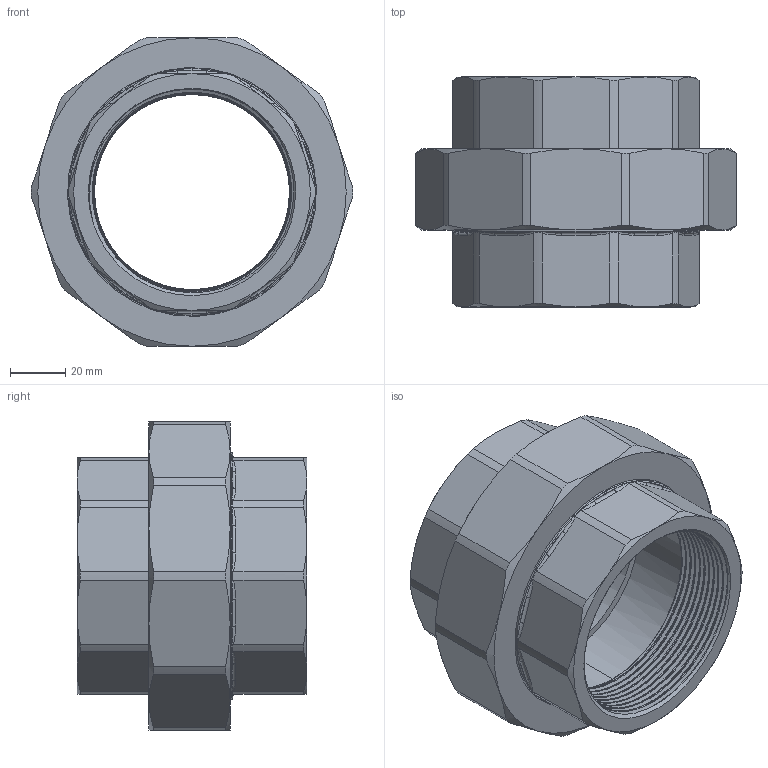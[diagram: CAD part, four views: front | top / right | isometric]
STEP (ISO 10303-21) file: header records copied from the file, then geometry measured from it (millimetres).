
FILE_DESCRIPTION (( 'STEP AP214' ), '1' );
FILE_NAME ('Union(F-type)-65A.STEP', '2022-08-10T04:10:58', ( 'ASIS User' ), ( 'ASIS User' ), 'SwSTEP 2.0', 'SolidWorks 2022', '' );
FILE_SCHEMA (( 'AUTOMOTIVE_DESIGN' ));
Length unit declared in the file: millimetre
Products named in the file (5): Union(F-type)-65A; Union(F-type)-Nut-65A; Union(F-type)-thread-65A; Union(F-type)-Gasket-65A; Union(F-type)-Brim-65A
Assembly tree (4 placements, depth 2):
  Union(F-type)-65A
    Union(F-type)-Gasket-65A
    Union(F-type)-Brim-65A
    Union(F-type)-thread-65A
    Union(F-type)-Nut-65A
Bounding box: 116.76 x 83.5 x 112 mm (x, y, z)
Volume: 269697.3 mm3; surface area: 103363.8 mm2
Topology: 4 solids, 4 shells, 362 faces, 1117 edges, 768 vertices
Faces by surface type: bspline 133, cylinder 106, plane 57, cone 44, torus 22
Entity records: 53612 total; most frequent: CARTESIAN_POINT 45189, ORIENTED_EDGE 2234, EDGE_CURVE 1117, DIRECTION 1035, VERTEX_POINT 768, B_SPLINE_CURVE_WITH_KNOTS 679, AXIS2_PLACEMENT_3D 438, EDGE_LOOP 375
